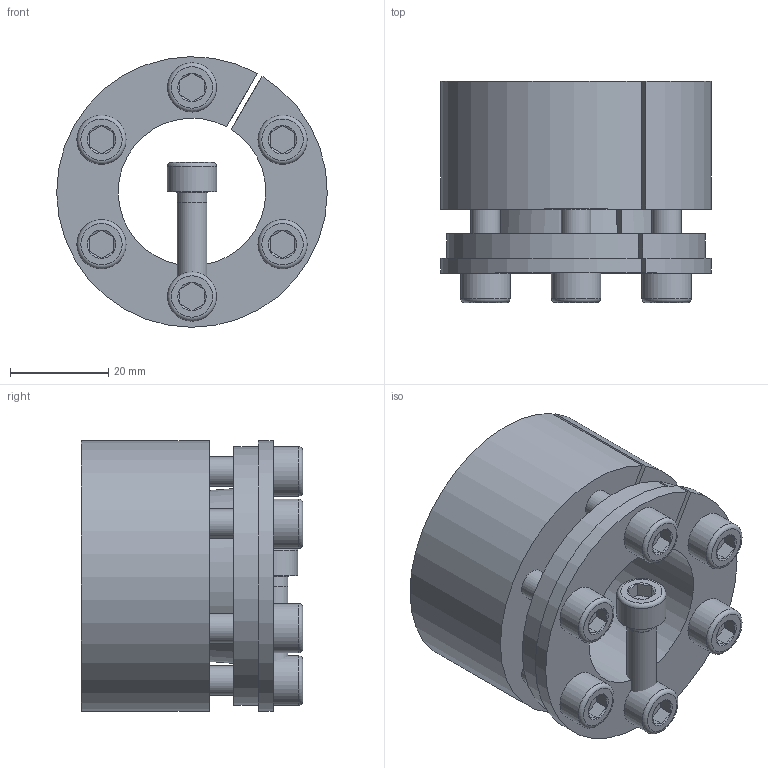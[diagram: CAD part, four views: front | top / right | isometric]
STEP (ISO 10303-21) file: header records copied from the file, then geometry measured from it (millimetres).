
FILE_DESCRIPTION( ( 'Unknown' ), '1' );
FILE_NAME( 'C:/Dokumente und Einstellungen/Sven/Desktop/homepage/cad - homepage/KBS70/KBS 70 - 30 x 55.stp', 'Unknown', ( 'Unknown' ), ( 'Unknown' ), 'XStep 1.0', 'Unknown', ' ' );
FILE_SCHEMA( ( 'automotive_design' ) );
Length unit declared in the file: millimetre
Products named in the file (3): Assem1; KBS 70 - 30 x 55; ISO EN DIN 4762 M6x25
Bounding box: 55 x 45 x 55 mm (x, y, z)
Volume: 108919.8 mm3; surface area: 46338.4 mm2
Topology: 9 solids, 9 shells, 227 faces, 467 edges, 286 vertices
Faces by surface type: plane 100, cylinder 60, cone 53, torus 14
Full cylindrical faces by diameter (mm): 5 x7, 6 x38, 10 x7
Entity records: 1694 total; most frequent: CARTESIAN_POINT 283, DIRECTION 256, ORIENTED_EDGE 190, AXIS2_PLACEMENT_3D 112, EDGE_LOOP 98, EDGE_CURVE 95, VERTEX_POINT 71, FACE_OUTER_BOUND 69
